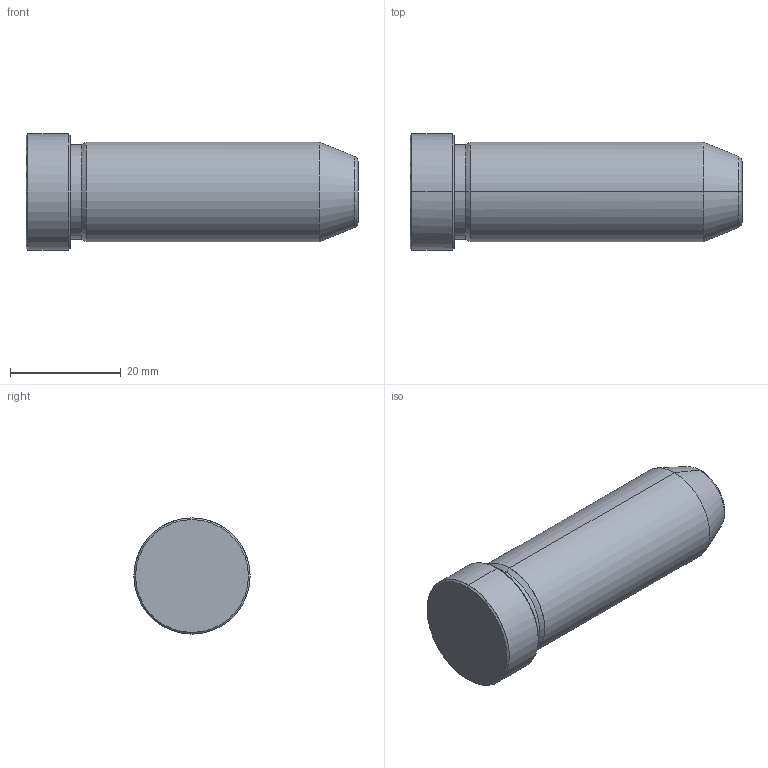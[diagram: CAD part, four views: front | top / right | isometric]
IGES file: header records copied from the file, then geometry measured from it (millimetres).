
Start section: START RECORD GO HERE.
Global section: file name: 549-18X60.igs; native system: DASSAULT SYSTEMES CATIA V5 R20 - www.3ds.com; preprocessor: CATIA Version 5 Release 20 ; author: Utente; organization: NB04-ASUS; date: 20211211.104440; units: millimetre
Bounding box: 60 x 21 x 21 mm (x, y, z)
Surface area: 3987.5 mm2 (no closed solid volume)
Topology: 0 solids, 0 shells, 19 faces, 112 edges, 112 vertices
Faces by surface type: revolution 16, plane 3
